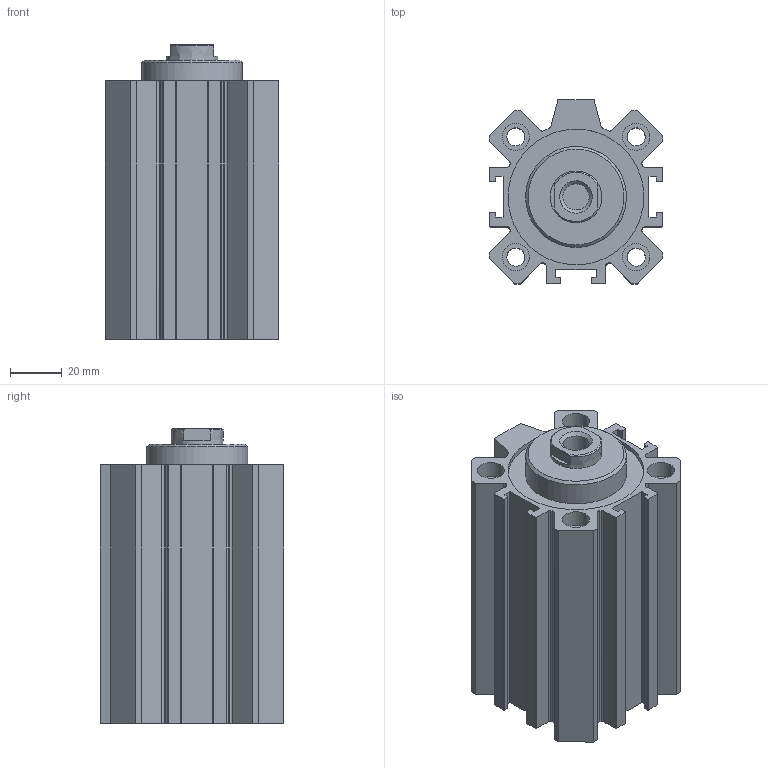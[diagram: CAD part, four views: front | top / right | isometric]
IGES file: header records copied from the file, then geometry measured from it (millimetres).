
Global section: file name: 1511_50_0060; native system: Autodesk Inventor 2014; preprocessor: unknown; author: A. Manieri; date: 20160824.134103; units: millimetre
Bounding box: 67 x 71 x 114 mm (x, y, z)
Volume: 257706.8 mm3; surface area: 85453 mm2
Topology: 2 solids, 2 shells, 165 faces, 443 edges, 300 vertices
Faces by surface type: bspline 165
